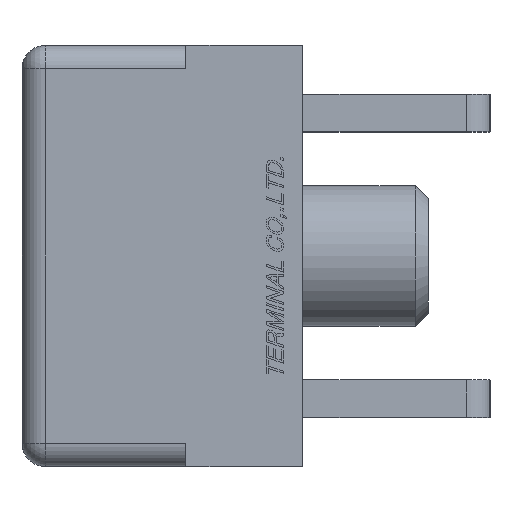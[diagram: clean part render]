
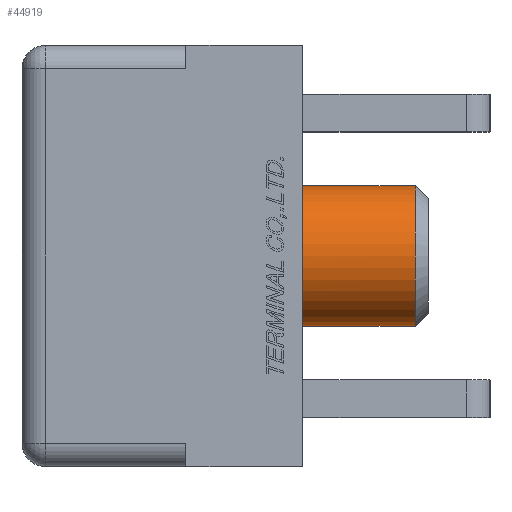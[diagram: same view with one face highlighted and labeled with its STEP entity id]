
A CAD part, left-side view. The second image highlights one B-rep face of the part: STEP entity #44919.
In plain terms, the highlighted cylindrical face has radius 1.5 mm (diameter 3 mm), a full revolution.
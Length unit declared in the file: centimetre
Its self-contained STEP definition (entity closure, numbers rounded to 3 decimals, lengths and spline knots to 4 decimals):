
#463=CIRCLE('',#77420,0.15);
#467=CIRCLE('',#77426,0.15);
#967=CYLINDRICAL_SURFACE('',#77421,0.15);
#3114=VERTEX_POINT('',#59771);
#3119=VERTEX_POINT('',#59784);
#18373=EDGE_CURVE('',#3114,#3114,#463,.T.);
#18379=EDGE_CURVE('',#3119,#3119,#467,.T.);
#25890=ORIENTED_EDGE('',*,*,#18373,.F.);
#25891=ORIENTED_EDGE('',*,*,#18379,.F.);
#38959=EDGE_LOOP('',(#25890));
#38960=EDGE_LOOP('',(#25891));
#41951=FACE_BOUND('',#38959,.T.);
#41952=FACE_BOUND('',#38960,.T.);
#44919=ADVANCED_FACE('',(#41951,#41952),#967,.T.);
#50059=DIRECTION('',(0.,1.,0.));
#50060=DIRECTION('',(0.15,0.,-0.001));
#50063=DIRECTION('',(0.,-1.,0.));
#50064=DIRECTION('',(0.15,0.,0.));
#50073=DIRECTION('',(0.,-1.,0.));
#50074=DIRECTION('',(-0.15,0.,0.));
#59770=CARTESIAN_POINT('',(-0.31,0.25,0.));
#59771=CARTESIAN_POINT('',(-0.16,0.25,-0.001));
#59775=CARTESIAN_POINT('',(-0.31,0.3321,0.));
#59783=CARTESIAN_POINT('',(-0.31,-0.2398,0.));
#59784=CARTESIAN_POINT('',(-0.16,-0.2398,0.));
#77420=AXIS2_PLACEMENT_3D('',#59770,#50059,#50060);
#77421=AXIS2_PLACEMENT_3D('',#59775,#50063,#50064);
#77426=AXIS2_PLACEMENT_3D('',#59783,#50073,#50074);
